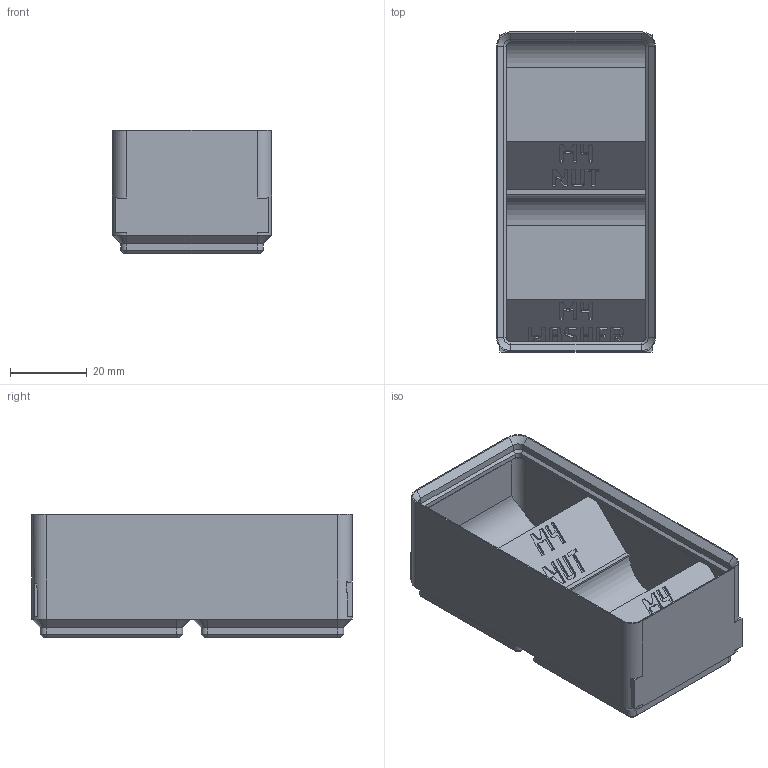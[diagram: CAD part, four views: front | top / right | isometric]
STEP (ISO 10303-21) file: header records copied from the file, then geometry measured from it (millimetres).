
FILE_DESCRIPTION(('Open CASCADE Model'),'2;1');
FILE_NAME('Open CASCADE Shape Model','2026-11-03T10:59:36',('Author'),( 'Open CASCADE'),'Open CASCADE STEP processor 8.0','build123d', 'Unknown');
FILE_SCHEMA(('AUTOMOTIVE_DESIGN { 1 0 10303 214 1 1 1 1 }'));
Products named in the file (1): COMPOUND
Bounding box: 41.5 x 83.5 x 32.1 mm (x, y, z)
Volume: 30740.3 mm3; surface area: 23918.7 mm2
Topology: 1 solids, 1 shells, 1391 faces, 4039 edges, 2670 vertices
Faces by surface type: plane 1333, cylinder 30, cone 28
Entity records: 97328 total; most frequent: CARTESIAN_POINT 16813, DIRECTION 14647, LINE 11651, VECTOR 11651, ORIENTED_EDGE 8078, PCURVE 8078, DEFINITIONAL_REPRESENTATION 8078, EDGE_CURVE 4039
